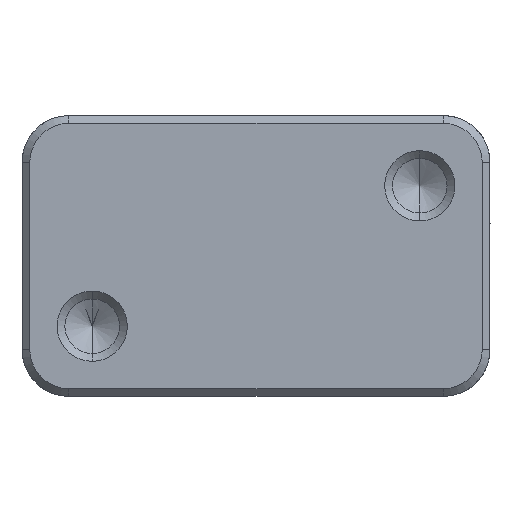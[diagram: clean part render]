
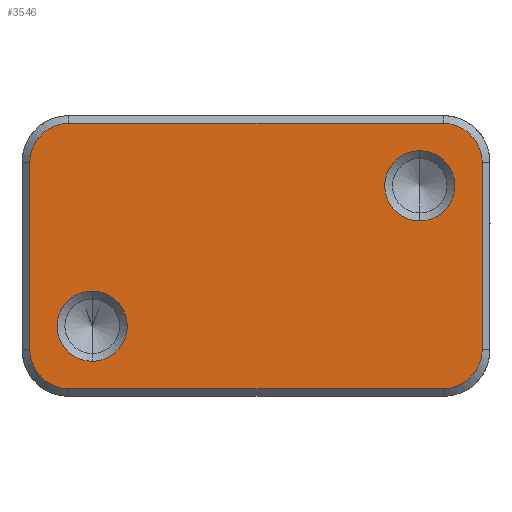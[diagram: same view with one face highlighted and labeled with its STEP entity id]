
A CAD part, front view. The second image highlights one B-rep face of the part: STEP entity #3546.
In plain terms, the highlighted planar face has unit normal (0, -1, 0).
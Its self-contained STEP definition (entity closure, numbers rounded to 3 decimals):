
#120 = EDGE_CURVE ( 'NONE', #3233, #10614, #5545, .T. ) ;
#257 = CARTESIAN_POINT ( 'NONE',  ( 21., 0., 8.993 ) ) ;
#305 = ORIENTED_EDGE ( 'NONE', *, *, #11796, .T. ) ;
#360 = CIRCLE ( 'NONE', #6952, 4.999 ) ;
#370 = CARTESIAN_POINT ( 'NONE',  ( 30., 0., 16.992 ) ) ;
#618 = CARTESIAN_POINT ( 'NONE',  ( -29., 0., -12.009 ) ) ;
#672 = CARTESIAN_POINT ( 'NONE',  ( 30., 0., 17.992 ) ) ;
#744 = FACE_BOUND ( 'NONE', #4274, .T. ) ;
#825 = CARTESIAN_POINT ( 'NONE',  ( -21., 0., -13.509 ) ) ;
#912 = DIRECTION ( 'NONE',  ( 0., 1., 0. ) ) ;
#1031 = ORIENTED_EDGE ( 'NONE', *, *, #12068, .T. ) ;
#1161 = EDGE_LOOP ( 'NONE', ( #305, #10535, #4364, #1838, #1031, #9657, #8438, #9764 ) ) ;
#1296 = CARTESIAN_POINT ( 'NONE',  ( 29., 0., -12.009 ) ) ;
#1393 = AXIS2_PLACEMENT_3D ( 'NONE', #257, #8393, #10600 ) ;
#1424 = VECTOR ( 'NONE', #5719, 1000. ) ;
#1838 = ORIENTED_EDGE ( 'NONE', *, *, #13330, .T. ) ;
#1898 = ORIENTED_EDGE ( 'NONE', *, *, #4371, .T. ) ;
#1935 = VERTEX_POINT ( 'NONE', #2306 ) ;
#2127 = EDGE_CURVE ( 'NONE', #6363, #5328, #11772, .T. ) ;
#2131 = EDGE_CURVE ( 'NONE', #12309, #3233, #6767, .T. ) ;
#2142 = DIRECTION ( 'NONE',  ( 0., 0., 1. ) ) ;
#2306 = CARTESIAN_POINT ( 'NONE',  ( 29., 0., 11.993 ) ) ;
#2469 = DIRECTION ( 'NONE',  ( 0., 0., -1. ) ) ;
#2571 = DIRECTION ( 'NONE',  ( 0., -1., 0. ) ) ;
#2690 = CARTESIAN_POINT ( 'NONE',  ( 21., 0., 4.493 ) ) ;
#2978 = LINE ( 'NONE', #11247, #10479 ) ;
#3233 = VERTEX_POINT ( 'NONE', #8139 ) ;
#3546 = ADVANCED_FACE ( 'NONE', ( #6179, #744, #6939 ), #7007, .T. ) ;
#3574 = AXIS2_PLACEMENT_3D ( 'NONE', #10702, #2571, #7516 ) ;
#3603 = DIRECTION ( 'NONE',  ( 0., 1., 0. ) ) ;
#3614 = CARTESIAN_POINT ( 'NONE',  ( 24., 0., -17.009 ) ) ;
#3684 = VECTOR ( 'NONE', #5390, 1000. ) ;
#3702 = CARTESIAN_POINT ( 'NONE',  ( -24., 0., -17.009 ) ) ;
#4002 = DIRECTION ( 'NONE',  ( 0., 0., 1. ) ) ;
#4025 = CIRCLE ( 'NONE', #1393, 4.5 ) ;
#4139 = CARTESIAN_POINT ( 'NONE',  ( 21., 0., 8.993 ) ) ;
#4195 = CARTESIAN_POINT ( 'NONE',  ( 24., 0., -12.009 ) ) ;
#4245 = ORIENTED_EDGE ( 'NONE', *, *, #4502, .T. ) ;
#4274 = EDGE_LOOP ( 'NONE', ( #4245, #4480 ) ) ;
#4364 = ORIENTED_EDGE ( 'NONE', *, *, #6435, .T. ) ;
#4371 = EDGE_CURVE ( 'NONE', #7750, #5399, #4025, .T. ) ;
#4409 = CARTESIAN_POINT ( 'NONE',  ( 24., 0., 16.992 ) ) ;
#4469 = VERTEX_POINT ( 'NONE', #1296 ) ;
#4480 = ORIENTED_EDGE ( 'NONE', *, *, #2127, .T. ) ;
#4502 = EDGE_CURVE ( 'NONE', #5328, #6363, #8657, .T. ) ;
#4562 = DIRECTION ( 'NONE',  ( -1., 0., 0. ) ) ;
#5031 = CARTESIAN_POINT ( 'NONE',  ( 24., 0., 11.993 ) ) ;
#5328 = VERTEX_POINT ( 'NONE', #825 ) ;
#5349 = VERTEX_POINT ( 'NONE', #618 ) ;
#5390 = DIRECTION ( 'NONE',  ( 0., 0., -1. ) ) ;
#5399 = VERTEX_POINT ( 'NONE', #2690 ) ;
#5545 = CIRCLE ( 'NONE', #3574, 4.999 ) ;
#5719 = DIRECTION ( 'NONE',  ( 1., 0., 0. ) ) ;
#5965 = DIRECTION ( 'NONE',  ( 1., 0., 0. ) ) ;
#6026 = VECTOR ( 'NONE', #4562, 1000. ) ;
#6179 = FACE_BOUND ( 'NONE', #6590, .T. ) ;
#6229 = CARTESIAN_POINT ( 'NONE',  ( 21., 0., 13.493 ) ) ;
#6363 = VERTEX_POINT ( 'NONE', #10640 ) ;
#6435 = EDGE_CURVE ( 'NONE', #13444, #10796, #7723, .T. ) ;
#6590 = EDGE_LOOP ( 'NONE', ( #9401, #1898 ) ) ;
#6692 = AXIS2_PLACEMENT_3D ( 'NONE', #9809, #3603, #10913 ) ;
#6767 = LINE ( 'NONE', #370, #6026 ) ;
#6939 = FACE_OUTER_BOUND ( 'NONE', #1161, .T. ) ;
#6952 = AXIS2_PLACEMENT_3D ( 'NONE', #5031, #9171, #4002 ) ;
#7007 = PLANE ( 'NONE',  #7031 ) ;
#7031 = AXIS2_PLACEMENT_3D ( 'NONE', #672, #12464, #5965 ) ;
#7228 = DIRECTION ( 'NONE',  ( 0., -1., 0. ) ) ;
#7317 = AXIS2_PLACEMENT_3D ( 'NONE', #7685, #11905, #2469 ) ;
#7516 = DIRECTION ( 'NONE',  ( 0., 0., 1. ) ) ;
#7685 = CARTESIAN_POINT ( 'NONE',  ( -21., 0., -9.009 ) ) ;
#7723 = LINE ( 'NONE', #10003, #1424 ) ;
#7750 = VERTEX_POINT ( 'NONE', #6229 ) ;
#8139 = CARTESIAN_POINT ( 'NONE',  ( -24., 0., 16.992 ) ) ;
#8362 = CARTESIAN_POINT ( 'NONE',  ( -29., 0., 17.992 ) ) ;
#8393 = DIRECTION ( 'NONE',  ( 0., 1., 0. ) ) ;
#8438 = ORIENTED_EDGE ( 'NONE', *, *, #2131, .T. ) ;
#8555 = DIRECTION ( 'NONE',  ( 0., 0., -1. ) ) ;
#8657 = CIRCLE ( 'NONE', #7317, 4.5 ) ;
#8970 = DIRECTION ( 'NONE',  ( 0., 0., 1. ) ) ;
#9171 = DIRECTION ( 'NONE',  ( 0., -1., 0. ) ) ;
#9401 = ORIENTED_EDGE ( 'NONE', *, *, #12251, .T. ) ;
#9533 = LINE ( 'NONE', #8362, #3684 ) ;
#9591 = AXIS2_PLACEMENT_3D ( 'NONE', #4139, #912, #8555 ) ;
#9657 = ORIENTED_EDGE ( 'NONE', *, *, #12094, .T. ) ;
#9764 = ORIENTED_EDGE ( 'NONE', *, *, #120, .T. ) ;
#9809 = CARTESIAN_POINT ( 'NONE',  ( -21., 0., -9.009 ) ) ;
#9978 = CIRCLE ( 'NONE', #12169, 4.999 ) ;
#10003 = CARTESIAN_POINT ( 'NONE',  ( -282.5, 0., -17.009 ) ) ;
#10244 = CIRCLE ( 'NONE', #9591, 4.5 ) ;
#10280 = EDGE_CURVE ( 'NONE', #5349, #13444, #12364, .T. ) ;
#10309 = CARTESIAN_POINT ( 'NONE',  ( -29., 0., 11.993 ) ) ;
#10465 = DIRECTION ( 'NONE',  ( 0., 0., 1. ) ) ;
#10479 = VECTOR ( 'NONE', #8970, 1000. ) ;
#10535 = ORIENTED_EDGE ( 'NONE', *, *, #10280, .T. ) ;
#10600 = DIRECTION ( 'NONE',  ( 0., 0., -1. ) ) ;
#10614 = VERTEX_POINT ( 'NONE', #10309 ) ;
#10640 = CARTESIAN_POINT ( 'NONE',  ( -21., 0., -4.509 ) ) ;
#10702 = CARTESIAN_POINT ( 'NONE',  ( -24., 0., 11.993 ) ) ;
#10796 = VERTEX_POINT ( 'NONE', #3614 ) ;
#10913 = DIRECTION ( 'NONE',  ( 0., 0., -1. ) ) ;
#11247 = CARTESIAN_POINT ( 'NONE',  ( 29., 0., 17.992 ) ) ;
#11500 = DIRECTION ( 'NONE',  ( 0., -1., 0. ) ) ;
#11707 = CARTESIAN_POINT ( 'NONE',  ( -24., 0., -12.009 ) ) ;
#11772 = CIRCLE ( 'NONE', #6692, 4.5 ) ;
#11796 = EDGE_CURVE ( 'NONE', #10614, #5349, #9533, .T. ) ;
#11905 = DIRECTION ( 'NONE',  ( 0., 1., 0. ) ) ;
#12068 = EDGE_CURVE ( 'NONE', #4469, #1935, #2978, .T. ) ;
#12094 = EDGE_CURVE ( 'NONE', #1935, #12309, #360, .T. ) ;
#12169 = AXIS2_PLACEMENT_3D ( 'NONE', #4195, #7228, #2142 ) ;
#12251 = EDGE_CURVE ( 'NONE', #5399, #7750, #10244, .T. ) ;
#12309 = VERTEX_POINT ( 'NONE', #4409 ) ;
#12364 = CIRCLE ( 'NONE', #13025, 4.999 ) ;
#12464 = DIRECTION ( 'NONE',  ( 0., -1., 0. ) ) ;
#13025 = AXIS2_PLACEMENT_3D ( 'NONE', #11707, #11500, #10465 ) ;
#13330 = EDGE_CURVE ( 'NONE', #10796, #4469, #9978, .T. ) ;
#13444 = VERTEX_POINT ( 'NONE', #3702 ) ;
